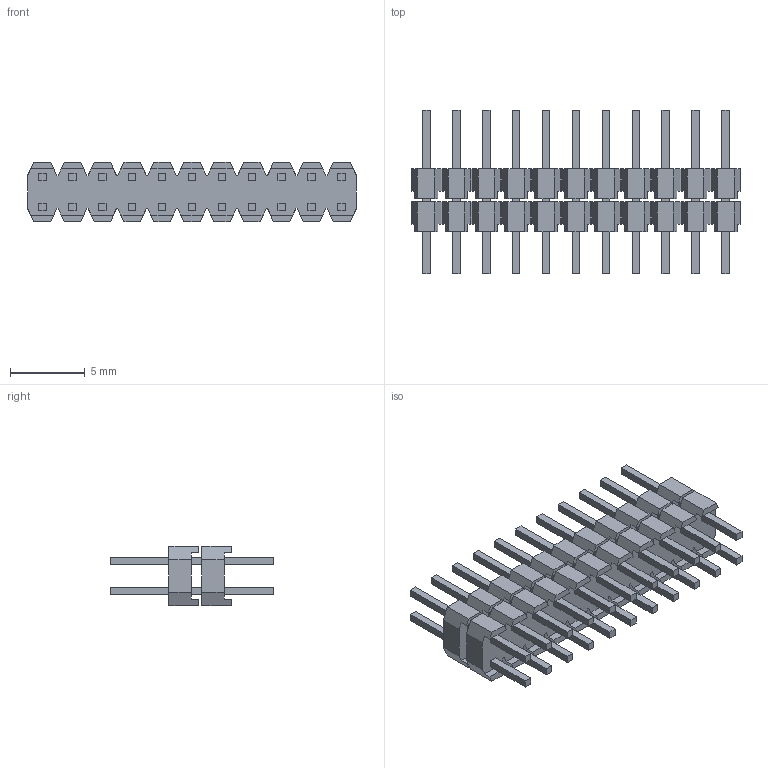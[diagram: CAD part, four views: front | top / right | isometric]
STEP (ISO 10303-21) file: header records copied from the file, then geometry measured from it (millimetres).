
FILE_DESCRIPTION (( 'STEP AP214' ), '1' );
FILE_NAME ('PZ200-2-11-Z-C4.2-XX-DP(L10.9) (2.00邧齬 邧呿 眻齬渀-HCTL).STEP', '2024-11-01T09:23:49', ( '' ), ( '' ), 'SwSTEP 2.0', 'SolidWorks 2022', '' );
FILE_SCHEMA (( 'AUTOMOTIVE_DESIGN' ));
Length unit declared in the file: millimetre
Products named in the file (1): PZ200-2-11-Z-C4.2-XX-DP(L10.9) (2.00邧齬 邧呿 眻齬渀-HCTL)
Bounding box: 22 x 10.9 x 4 mm (x, y, z)
Volume: 291.2 mm3; surface area: 951.4 mm2
Topology: 1 solids, 1 shells, 576 faces, 1631 edges, 1103 vertices
Faces by surface type: plane 576
Entity records: 18265 total; most frequent: CARTESIAN_POINT 3495, ORIENTED_EDGE 3262, DIRECTION 2601, EDGE_CURVE 1631, VECTOR 1447, LINE 1447, VERTEX_POINT 1103, EDGE_LOOP 664
